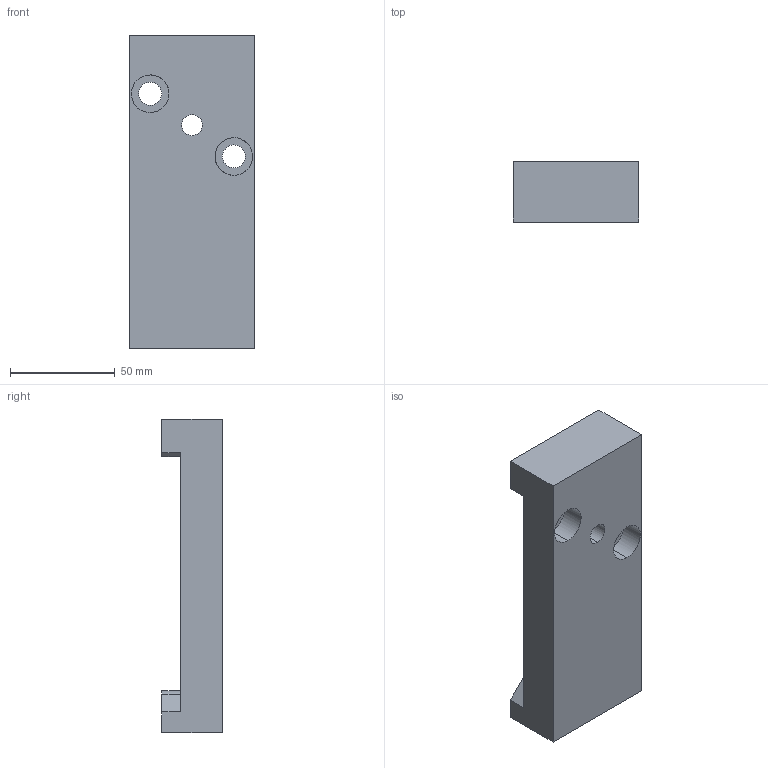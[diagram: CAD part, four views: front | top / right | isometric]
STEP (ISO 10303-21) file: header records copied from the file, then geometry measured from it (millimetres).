
FILE_DESCRIPTION(('CATIA V5 STEP Exchange'),'2;1');
FILE_NAME('C:\Users\Utente\Desktop\IO LAVORO\3D X SITO CF\X 3D SITO CF 27-09-2020\785\785-060.stp','2020-10-27T19:38:31+00:00',('none'),('none'),'CATIA Version 5 Release 20 GA (IN-10)','CATIA V5 STEP AP203','none');
FILE_SCHEMA(('CONFIG_CONTROL_DESIGN'));
Length unit declared in the file: millimetre
Products named in the file (1): 785-060
Bounding box: 60 x 29 x 150 mm (x, y, z)
Volume: 190694.6 mm3; surface area: 31070.8 mm2
Topology: 1 solids, 1 shells, 28 faces, 72 edges, 48 vertices
Faces by surface type: plane 16, cylinder 12
Entity records: 974 total; most frequent: CARTESIAN_POINT 241, ORIENTED_EDGE 144, DIRECTION 124, EDGE_CURVE 72, AXIS2_PLACEMENT_3D 49, VECTOR 48, LINE 48, VERTEX_POINT 48
